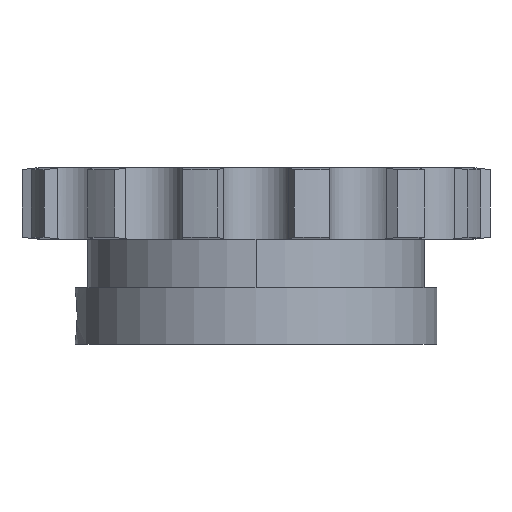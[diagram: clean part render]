
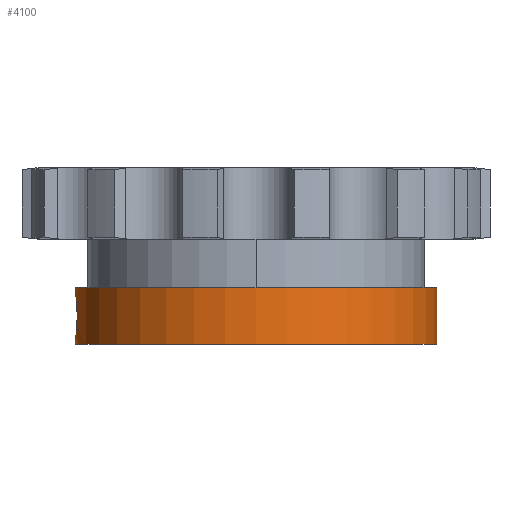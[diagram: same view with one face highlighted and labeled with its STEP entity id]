
A CAD part, front view. The second image highlights one B-rep face of the part: STEP entity #4100.
In plain terms, the highlighted cylindrical face has radius 41 mm (diameter 82 mm), a partial arc.
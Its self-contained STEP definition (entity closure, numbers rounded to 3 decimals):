
#1009=CARTESIAN_POINT('',(-41.,0.,
-19.5));
#1033=DIRECTION('',(0.,0.,1.));
#1034=VECTOR('',#1033,12.8);
#1035=CARTESIAN_POINT('',(41.,0.,-31.9));
#1036=LINE('',#1035,#1034);
#1169=CARTESIAN_POINT('',(0.,0.,-31.9));
#1170=DIRECTION('',(0.,0.,-1.));
#1171=DIRECTION('',(1.,0.,0.));
#1172=AXIS2_PLACEMENT_3D('',#1169,#1170,#1171);
#1198=CARTESIAN_POINT('',(-41.,0.,
-19.5));
#1199=CARTESIAN_POINT('',(-41.,-0.246,
-19.5));
#1200=CARTESIAN_POINT('',(-40.995,-0.767,
-19.531));
#1201=CARTESIAN_POINT('',(-40.973,-1.558,
-19.678));
#1202=CARTESIAN_POINT('',(-40.935,-2.35,
-19.938));
#1203=CARTESIAN_POINT('',(-40.885,-3.097,
-20.3));
#1204=CARTESIAN_POINT('',(-40.827,-3.784,
-20.756));
#1205=CARTESIAN_POINT('',(-40.765,-4.401,
-21.297));
#1206=CARTESIAN_POINT('',(-40.703,-4.936,
-21.911));
#1207=CARTESIAN_POINT('',(-40.646,-5.382,
-22.589));
#1208=CARTESIAN_POINT('',(-40.598,-5.731,
-23.318));
#1209=CARTESIAN_POINT('',(-40.562,-5.975,
-24.081));
#1210=CARTESIAN_POINT('',(-40.543,-6.105,
-24.815));
#1211=CARTESIAN_POINT('',(-40.539,-6.131,
-25.287));
#1212=CARTESIAN_POINT('',(-40.539,-6.131,
-25.5));
#1217=DIRECTION('',(0.,0.,1.));
#1218=VECTOR('',#1217,0.4);
#1219=CARTESIAN_POINT('',(-41.,0.,
-19.5));
#1220=LINE('',#1219,#1218);
#1224=CARTESIAN_POINT('',(0.,0.,-19.1));
#1225=DIRECTION('',(0.,0.,1.));
#1226=DIRECTION('',(-1.,0.,0.));
#1227=AXIS2_PLACEMENT_3D('',#1224,#1225,#1226);
#1232=DIRECTION('',(0.,0.,1.));
#1233=VECTOR('',#1232,0.4);
#1234=CARTESIAN_POINT('',(-41.,0.,-31.9));
#1235=LINE('',#1234,#1233);
#1239=CARTESIAN_POINT('',(-40.539,-6.131,
-25.5));
#1240=CARTESIAN_POINT('',(-40.539,-6.131,
-25.724));
#1241=CARTESIAN_POINT('',(-40.543,-6.103,
-26.207));
#1242=CARTESIAN_POINT('',(-40.564,-5.967,
-26.95));
#1243=CARTESIAN_POINT('',(-40.599,-5.72,
-27.708));
#1244=CARTESIAN_POINT('',(-40.648,-5.369,
-28.433));
#1245=CARTESIAN_POINT('',(-40.704,-4.922,
-29.107));
#1246=CARTESIAN_POINT('',(-40.766,-4.387,
-29.717));
#1247=CARTESIAN_POINT('',(-40.828,-3.771,
-30.254));
#1248=CARTESIAN_POINT('',(-40.886,-3.085,
-30.706));
#1249=CARTESIAN_POINT('',(-40.936,-2.341,
-31.065));
#1250=CARTESIAN_POINT('',(-40.973,-1.552,
-31.324));
#1251=CARTESIAN_POINT('',(-40.995,-0.764,
-31.47));
#1252=CARTESIAN_POINT('',(-41.,-0.245,
-31.5));
#1253=CARTESIAN_POINT('',(-41.,0.,
-31.5));
#2717=CARTESIAN_POINT('',(-41.,0.,-31.9));
#2718=CARTESIAN_POINT('',(41.,0.,-31.9));
#2719=VERTEX_POINT('',#2717);
#2720=VERTEX_POINT('',#2718);
#2862=VERTEX_POINT('',#1009);
#2865=VERTEX_POINT('',#1212);
#2867=VERTEX_POINT('',#1253);
#2877=CARTESIAN_POINT('',(41.,0.,-19.1));
#2878=CARTESIAN_POINT('',(-41.,0.,-19.1));
#2879=VERTEX_POINT('',#2877);
#2880=VERTEX_POINT('',#2878);
#4084=CARTESIAN_POINT('',(0.,0.,8.1));
#4085=DIRECTION('',(0.,0.,1.));
#4086=DIRECTION('',(1.,0.,0.));
#4087=AXIS2_PLACEMENT_3D('',#4084,#4085,#4086);
#4088=CYLINDRICAL_SURFACE('',#4087,41.);
#4090=ORIENTED_EDGE('',*,*,#4089,.F.);
#4091=ORIENTED_EDGE('',*,*,#3754,.T.);
#4092=ORIENTED_EDGE('',*,*,#3729,.T.);
#4093=ORIENTED_EDGE('',*,*,#3751,.F.);
#4094=ORIENTED_EDGE('',*,*,#4070,.T.);
#4095=ORIENTED_EDGE('',*,*,#3747,.T.);
#4097=ORIENTED_EDGE('',*,*,#4096,.F.);
#4098=EDGE_LOOP('',(#4090,#4091,#4092,#4093,#4094,#4095,#4097));
#4099=FACE_OUTER_BOUND('',#4098,.F.);
#4100=ADVANCED_FACE('',(#4099),#4088,.T.);
#1173=CIRCLE('',#1172,41.);
#1213=B_SPLINE_CURVE_WITH_KNOTS('',3,(#1198,#1199,#1200,#1201,#1202,#1203,#1204,
#1205,#1206,#1207,#1208,#1209,#1210,#1211,#1212),.UNSPECIFIED.,.F.,.F.,(4,1,1,1,
1,1,1,1,1,1,1,1,4),(0.,0.077,0.162,0.247,
0.332,0.418,0.503,0.588,
0.673,0.759,0.844,0.929,1.),
.UNSPECIFIED.);
#1228=CIRCLE('',#1227,41.);
#1254=B_SPLINE_CURVE_WITH_KNOTS('',3,(#1239,#1240,#1241,#1242,#1243,#1244,#1245,
#1246,#1247,#1248,#1249,#1250,#1251,#1252,#1253),.UNSPECIFIED.,.F.,.F.,(4,1,1,1,
1,1,1,1,1,1,1,1,4),(0.,0.075,0.16,0.245,
0.329,0.414,0.499,0.584,
0.669,0.754,0.839,0.924,1.),
.UNSPECIFIED.);
#3729=EDGE_CURVE('',#2880,#2879,#1228,.T.);
#3747=EDGE_CURVE('',#2719,#2867,#1235,.T.);
#3751=EDGE_CURVE('',#2720,#2879,#1036,.T.);
#3754=EDGE_CURVE('',#2862,#2880,#1220,.T.);
#4070=EDGE_CURVE('',#2720,#2719,#1173,.T.);
#4089=EDGE_CURVE('',#2862,#2865,#1213,.T.);
#4096=EDGE_CURVE('',#2865,#2867,#1254,.T.);
